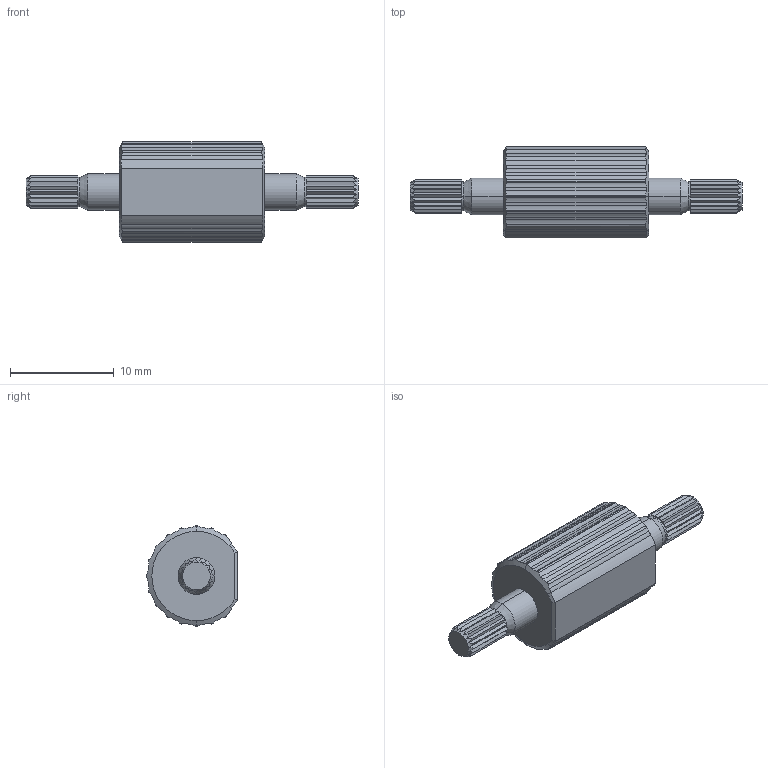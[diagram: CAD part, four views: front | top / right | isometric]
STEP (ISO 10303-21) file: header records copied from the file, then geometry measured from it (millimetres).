
FILE_DESCRIPTION (( 'STEP AP214' ), '1' );
FILE_NAME ('TI-320-X.XX-05.STEP', '2018-08-28T19:37:02', ( 'USER' ), ( '' ), 'SwSTEP 2.0', 'SolidWorks 2017', '' );
FILE_SCHEMA (( 'AUTOMOTIVE_DESIGN' ));
Length unit declared in the file: millimetre
Products named in the file (1): TI-320-X.XX-05
Bounding box: 32 x 8.84 x 9.71 mm (x, y, z)
Volume: 1092.2 mm3; surface area: 752.3 mm2
Topology: 1 solids, 1 shells, 261 faces, 677 edges, 420 vertices
Faces by surface type: plane 125, cylinder 114, cone 18, torus 4
Entity records: 8143 total; most frequent: CARTESIAN_POINT 2021, ORIENTED_EDGE 1354, DIRECTION 1175, EDGE_CURVE 677, AXIS2_PLACEMENT_3D 442, VERTEX_POINT 420, VECTOR 291, LINE 291
